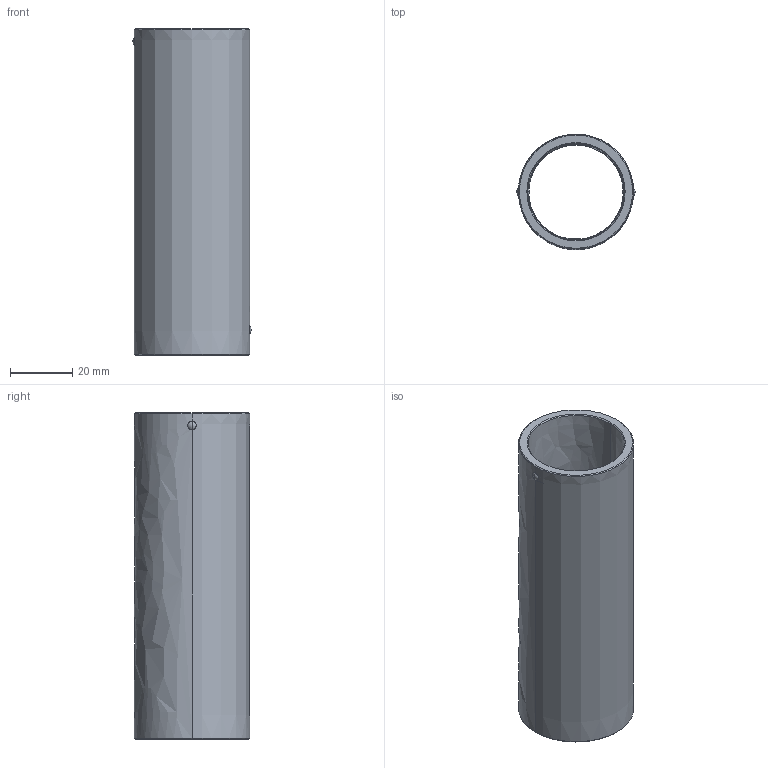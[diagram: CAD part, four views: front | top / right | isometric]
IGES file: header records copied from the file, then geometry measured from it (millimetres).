
Start section: START RECORD GO HERE.
Global section: file name: 730-30x105.igs; native system: DASSAULT SYSTEMES CATIA V5 R20 - www.3ds.com; preprocessor: CATIA Version 5 Release 20 ; author: Utente; organization: NB04-ASUS; date: 20210107.171133; units: millimetre
Bounding box: 38 x 37 x 105 mm (x, y, z)
Surface area: 23419.4 mm2 (no closed solid volume)
Topology: 0 solids, 0 shells, 44 faces, 240 edges, 240 vertices
Faces by surface type: revolution 36, plane 8
